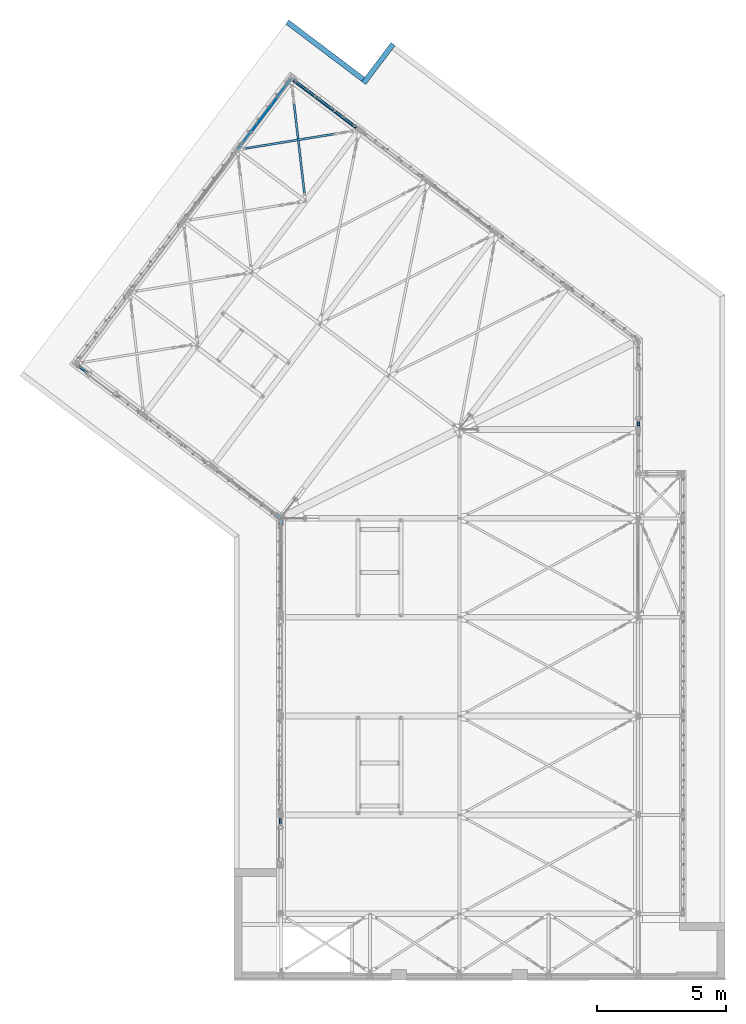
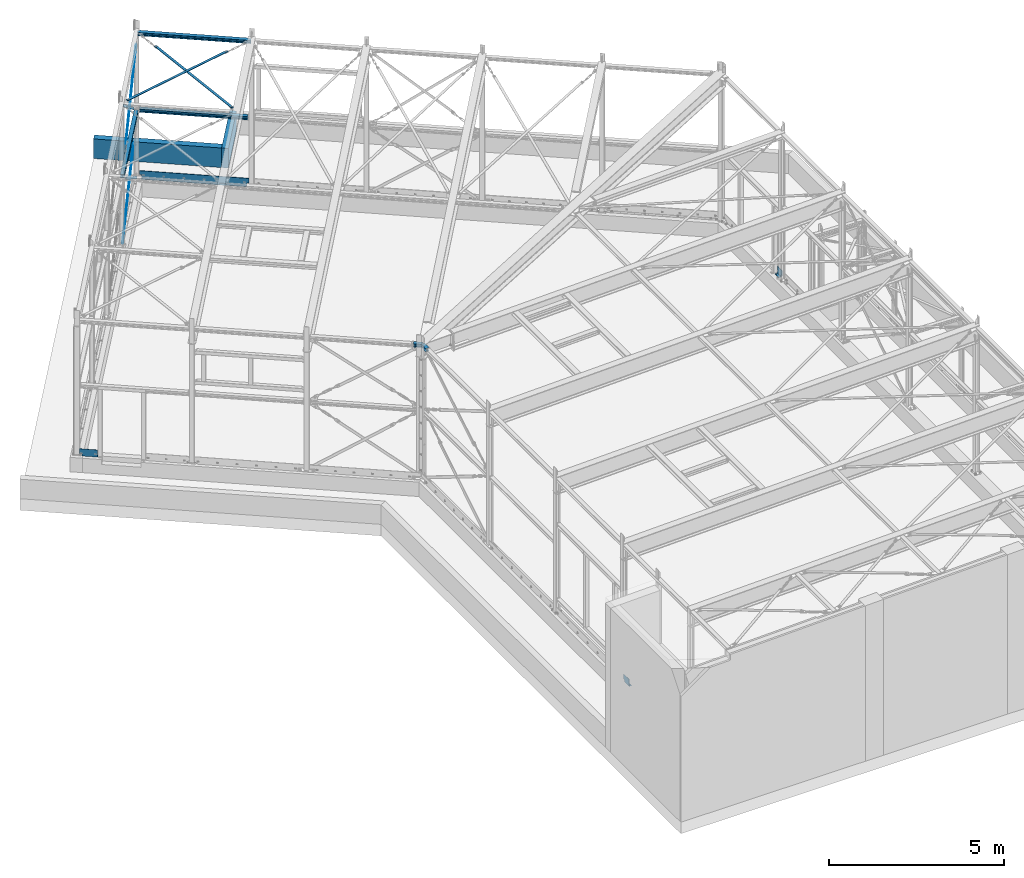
# One storey, part 27 of 476: 11 beams, 6 members, 53 openings.
"""IFC2X3 building model written with IfcOpenShell, lengths in millimetres."""

from ifc_helpers import new_model, entity, si_unit, converted_unit, frame, frame_2d, origin, origin_with_axes, origin_2d, origin_2d_with_axis, place, context, project, spatial, polyline, rectangle, circle, i_section, l_section, outline, extrude, clip, halfspace, material, element, save


model = new_model("IFC2X3")

# Units and contexts
model_context = context("Model", 3, precision=1e-09, world=origin_with_axes())
ifc_project = project(units=[si_unit("LENGTHUNIT", "METRE", prefix="MILLI"), si_unit("AREAUNIT", "SQUARE_METRE"), si_unit("VOLUMEUNIT", "CUBIC_METRE"), converted_unit("PLANEANGLEUNIT", "DEGREE", entity("IfcPlaneAngleMeasure", 0.01745329), si_unit("PLANEANGLEUNIT", "RADIAN"), dimensions=[0, 0, 0, 0, 0, 0, 0])], contexts=[model_context])

# Site, building, storey
site_placement = place(None, origin_with_axes())
site = spatial("IfcSite", under=ifc_project, at=site_placement, Name="mKR Teilneubau & Sanierung BA1 - Ostfildern", CompositionType="ELEMENT")
building_placement = place(site_placement, origin_with_axes())
building = spatial("IfcBuilding", under=site, at=building_placement, Name="Struktur 1", CompositionType="ELEMENT")
storey_placement = place(building_placement, origin_with_axes())
storey = spatial("IfcBuildingStorey", under=building, at=storey_placement, Name="Default Storey", CompositionType="ELEMENT", Elevation=0.0)

# Member, openings
ifc_material_1 = material(Name="S235JR")
member_1_placement = place(None, frame((10318.309689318, 8914.584839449, 5617.150098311), z_axis=(-0.986798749, -0.160487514, -0.021725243), x_axis=(0.018108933, 0.0239618, -0.999548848)))
member_1 = element("IfcMember", 1, at=member_1_placement, inside=storey, material=ifc_material_1, Name="-", ObjectType="-", context=model_context, shape_type="SweptSolid", body=[
    extrude(rectangle(XDim=15.0, YDim=80.0, at=origin_2d()), origin(), (0.0, 0.0, 1.0), 3695.564817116),
])
opening_1_placement = place(member_1_placement, frame((8.0, 0.0, 45.499), z_axis=(1.0, 0.0, 0.0), x_axis=(0.0, 1.0, 0.0)))
element("IfcOpeningElement", 2, at=opening_1_placement, cuts=member_1, ObjectType="Opening", context=model_context, shape_type="SweptSolid", body=[
    extrude(circle(Radius=14.501, at=frame_2d((0.0, 14.501), x_axis=(1.0, 0.0))), origin(), (0.0, 0.0, -1.0), 16.0),
])
opening_2_placement = place(member_1_placement, frame((8.0, 0.0, 3621.06381712), z_axis=(1.0, 0.0, 0.0), x_axis=(0.0, 1.0, 0.0)))
element("IfcOpeningElement", 3, at=opening_2_placement, cuts=member_1, ObjectType="Opening", context=model_context, shape_type="SweptSolid", body=[
    extrude(circle(Radius=14.501, at=frame_2d((0.0, 14.501), x_axis=(1.0, 0.0))), origin(), (0.0, 0.0, -1.0), 16.0),
])

member_2_placement = place(None, frame((8666.794248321, 10162.076268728, 5617.150104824), z_axis=(-0.115440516, 0.993076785, 0.021725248), x_axis=(0.018097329, 0.023970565, -0.999548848)))
member_2 = element("IfcMember", 4, at=member_2_placement, inside=storey, material=ifc_material_1, Name="-", ObjectType="-", context=model_context, shape_type="SweptSolid", body=[
    extrude(rectangle(XDim=15.0, YDim=80.0, at=origin_2d()), origin(), (0.0, 0.0, -1.0), 3695.564817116),
])
opening_3_placement = place(member_2_placement, frame((8.0, 0.0, -60.0), z_axis=(-1.0, 0.0, 0.0), x_axis=(0.0, 0.0, -1.0)))
element("IfcOpeningElement", 5, at=opening_3_placement, cuts=member_2, ObjectType="Opening", context=model_context, shape_type="SweptSolid", body=[
    extrude(circle(Radius=14.501, at=origin_2d_with_axis()), origin(), (0.0, 0.0, 1.0), 16.0),
])
opening_4_placement = place(member_2_placement, frame((8.0, 0.0, -3635.56481712), z_axis=(-1.0, 0.0, 0.0), x_axis=(0.0, 0.0, -1.0)))
element("IfcOpeningElement", 6, at=opening_4_placement, cuts=member_2, ObjectType="Opening", context=model_context, shape_type="SweptSolid", body=[
    extrude(circle(Radius=14.501, at=origin_2d_with_axis()), origin(), (0.0, 0.0, 1.0), 16.0),
])

# Beam, openings
beam_1_placement = place(None, frame((8654.5932132, 11040.249564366, 594.499999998), z_axis=(-0.797941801, 0.602734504, 0.0), x_axis=(-0.602734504, -0.797941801, 0.0)))
beam_1 = element("IfcBeam", 7, at=beam_1_placement, inside=storey, material=ifc_material_1, Name="-", ObjectType="-", context=model_context, shape_type="SweptSolid", body=[
    extrude(l_section(Depth=250.0, Width=90.0, Thickness=10.0, FilletRadius=15.0, EdgeRadius=7.5, at=frame_2d((30.5, 29.4))), origin(), (0.0, 0.0, -1.0), 3143.500052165),
])
opening_5_placement = place(beam_1_placement, frame((-115.7, -94.5, 0.0), z_axis=(1.0, 0.0, 0.0), x_axis=(0.0, 0.0, -1.0)))
element("IfcOpeningElement", 8, at=opening_5_placement, cuts=beam_1, ObjectType="Opening", context=model_context, shape_type="SweptSolid", body=[
    extrude(outline(polyline([(53.501079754, 120.001), (-50.001, 120.001), (-50.001, -50.001), (53.501079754, -50.001), (53.501079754, 120.001)])), origin(), (0.0, 0.0, 1.0), 290.2),
])
opening_6_placement = place(beam_1_placement, frame((-115.7, -94.5, 0.0), z_axis=(1.0, 0.0, 0.0), x_axis=(0.0, 0.0, -1.0)))
element("IfcOpeningElement", 9, at=opening_6_placement, cuts=beam_1, ObjectType="Opening", context=model_context, shape_type="SweptSolid", body=[
    extrude(outline(polyline([(3078.499052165, -50.001), (3211.150575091, -50.001), (3211.150575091, 80.001), (3078.499052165, 80.001), (3078.499052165, -50.001)])), origin(), (0.0, 0.0, 1.0), 290.2),
])
opening_7_placement = place(beam_1_placement, frame((34.4, -95.0, -2033.24906596), z_axis=(0.0, -1.0, 0.0), x_axis=(1.0, 0.0, 0.0)))
element("IfcOpeningElement", 10, at=opening_7_placement, cuts=beam_1, ObjectType="Opening", context=model_context, shape_type="SweptSolid", body=[
    extrude(circle(Radius=6.001, at=frame_2d((0.0, -6.001), x_axis=(1.0, 0.0))), origin(), (0.0, 0.0, -1.0), 11.0),
])
opening_8_placement = place(beam_1_placement, frame((34.4, -95.0, -1083.24906596), z_axis=(0.0, -1.0, 0.0), x_axis=(1.0, 0.0, 0.0)))
element("IfcOpeningElement", 11, at=opening_8_placement, cuts=beam_1, ObjectType="Opening", context=model_context, shape_type="SweptSolid", body=[
    extrude(circle(Radius=6.001, at=frame_2d((0.0, -6.001), x_axis=(1.0, 0.0))), origin(), (0.0, 0.0, -1.0), 11.0),
])
opening_9_placement = place(beam_1_placement, frame((34.4, -95.0, -2983.24906596), z_axis=(0.0, -1.0, 0.0), x_axis=(1.0, 0.0, 0.0)))
element("IfcOpeningElement", 12, at=opening_9_placement, cuts=beam_1, ObjectType="Opening", context=model_context, shape_type="SweptSolid", body=[
    extrude(circle(Radius=6.001, at=frame_2d((0.0, -6.001), x_axis=(1.0, 0.0))), origin(), (0.0, 0.0, -1.0), 11.0),
])
opening_10_placement = place(beam_1_placement, frame((34.4, -95.0, -133.24906596), z_axis=(0.0, -1.0, 0.0), x_axis=(1.0, 0.0, 0.0)))
element("IfcOpeningElement", 13, at=opening_10_placement, cuts=beam_1, ObjectType="Opening", context=model_context, shape_type="SweptSolid", body=[
    extrude(circle(Radius=6.001, at=frame_2d((0.0, -6.001), x_axis=(1.0, 0.0))), origin(), (0.0, 0.0, -1.0), 11.0),
])
opening_11_placement = place(beam_1_placement, frame((-5.1, 13.5, -1571.750026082), z_axis=(-1.0, 0.0, 0.0), x_axis=(0.0, 0.0, 1.0)))
element("IfcOpeningElement", 14, at=opening_11_placement, cuts=beam_1, ObjectType="Opening", context=model_context, shape_type="SweptSolid", body=[
    extrude(circle(Radius=7.001, at=frame_2d((290.0, 0.0), x_axis=(1.0, 0.0))), origin(), (0.0, 0.0, 1.0), 11.0),
])
opening_12_placement = place(beam_1_placement, frame((-5.1, 13.5, -1571.750026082), z_axis=(-1.0, 0.0, 0.0), x_axis=(0.0, 0.0, 1.0)))
element("IfcOpeningElement", 15, at=opening_12_placement, cuts=beam_1, ObjectType="Opening", context=model_context, shape_type="SweptSolid", body=[
    extrude(circle(Radius=7.001, at=frame_2d((-290.0, 0.0), x_axis=(1.0, 0.0))), origin(), (0.0, 0.0, 1.0), 11.0),
])
opening_13_placement = place(beam_1_placement, frame((-5.1, 13.5, -1571.750026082), z_axis=(-1.0, 0.0, 0.0), x_axis=(0.0, 0.0, 1.0)))
element("IfcOpeningElement", 16, at=opening_13_placement, cuts=beam_1, ObjectType="Opening", context=model_context, shape_type="SweptSolid", body=[
    extrude(circle(Radius=7.001, at=frame_2d((870.0, 0.0), x_axis=(1.0, 0.0))), origin(), (0.0, 0.0, 1.0), 11.0),
])
opening_14_placement = place(beam_1_placement, frame((-5.1, 13.5, -1571.750026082), z_axis=(-1.0, 0.0, 0.0), x_axis=(0.0, 0.0, 1.0)))
element("IfcOpeningElement", 17, at=opening_14_placement, cuts=beam_1, ObjectType="Opening", context=model_context, shape_type="SweptSolid", body=[
    extrude(circle(Radius=7.001, at=frame_2d((-870.0, 0.0), x_axis=(1.0, 0.0))), origin(), (0.0, 0.0, 1.0), 11.0),
])
opening_15_placement = place(beam_1_placement, frame((-5.1, 13.5, -1571.750026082), z_axis=(-1.0, 0.0, 0.0), x_axis=(0.0, 0.0, 1.0)))
element("IfcOpeningElement", 18, at=opening_15_placement, cuts=beam_1, ObjectType="Opening", context=model_context, shape_type="SweptSolid", body=[
    extrude(circle(Radius=7.001, at=frame_2d((1450.0, 0.0), x_axis=(1.0, 0.0))), origin(), (0.0, 0.0, 1.0), 11.0),
])
opening_16_placement = place(beam_1_placement, frame((-5.1, 13.5, -1571.750026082), z_axis=(-1.0, 0.0, 0.0), x_axis=(0.0, 0.0, 1.0)))
element("IfcOpeningElement", 19, at=opening_16_placement, cuts=beam_1, ObjectType="Opening", context=model_context, shape_type="SweptSolid", body=[
    extrude(circle(Radius=7.001, at=frame_2d((-1450.0, 0.0), x_axis=(1.0, 0.0))), origin(), (0.0, 0.0, 1.0), 11.0),
])

beam_2_placement = place(None, frame((22016.508764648, -2149.104698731, 594.5), z_axis=(0.0, 1.0, 0.0), x_axis=(-1.0, 0.0, 0.0)))
beam_2 = element("IfcBeam", 20, at=beam_2_placement, inside=storey, material=ifc_material_1, Name="-", ObjectType="-", context=model_context, shape_type="SweptSolid", body=[
    extrude(l_section(Depth=250.0, Width=90.0, Thickness=10.0, FilletRadius=15.0, EdgeRadius=7.5, at=frame_2d((30.5, 29.4))), origin(), (0.0, 0.0, -1.0), 284.316255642),
])
opening_17_placement = place(beam_2_placement, frame((-115.7, -94.5, 0.0), z_axis=(1.0, 0.0, 0.0), x_axis=(0.0, 0.0, -1.0)))
element("IfcOpeningElement", 21, at=opening_17_placement, cuts=beam_2, ObjectType="Opening", context=model_context, shape_type="SweptSolid", body=[
    extrude(outline(polyline([(219.315255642, -50.001), (319.964041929, -50.001), (319.964041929, 80.001), (219.315255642, 80.001), (219.315255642, -50.001)])), origin(), (0.0, 0.0, 1.0), 290.2),
])
opening_18_placement = place(beam_2_placement, frame((34.4, -95.0, -163.656627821), z_axis=(0.0, -1.0, 0.0), x_axis=(1.0, 0.0, 0.0)))
element("IfcOpeningElement", 22, at=opening_18_placement, cuts=beam_2, ObjectType="Opening", context=model_context, shape_type="SweptSolid", body=[
    extrude(circle(Radius=6.001, at=frame_2d((0.0, -6.001), x_axis=(1.0, 0.0))), origin(), (0.0, 0.0, -1.0), 11.0),
])
opening_19_placement = place(beam_2_placement, frame((34.4, -95.0, -43.656627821), z_axis=(0.0, -1.0, 0.0), x_axis=(1.0, 0.0, 0.0)))
element("IfcOpeningElement", 23, at=opening_19_placement, cuts=beam_2, ObjectType="Opening", context=model_context, shape_type="SweptSolid", body=[
    extrude(circle(Radius=6.001, at=frame_2d((0.0, -6.001), x_axis=(1.0, 0.0))), origin(), (0.0, 0.0, -1.0), 11.0),
])
opening_20_placement = place(beam_2_placement, frame((-5.1, 13.5, -42.158127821), z_axis=(-1.0, 0.0, 0.0), x_axis=(0.0, 0.0, 1.0)))
element("IfcOpeningElement", 24, at=opening_20_placement, cuts=beam_2, ObjectType="Opening", context=model_context, shape_type="SweptSolid", body=[
    extrude(circle(Radius=7.001, at=origin_2d_with_axis()), origin(), (0.0, 0.0, 1.0), 11.0),
])

beam_3_placement = place(None, frame((8234.028761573, -6000.355709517, 5157.22121182), z_axis=(-0.797941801, 0.602734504, 0.0), x_axis=(-0.602462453, -0.797581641, -0.030041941)))
beam_3 = element("IfcBeam", 25, at=beam_3_placement, inside=storey, material=ifc_material_1, Name="-", ObjectType="-", context=model_context, shape_type="Clipping", body=[
    clip(clip(extrude(i_section(OverallWidth=120.0, OverallDepth=114.0, WebThickness=5.0, FlangeThickness=8.0, FilletRadius=12.0, at=origin_2d()), origin(), (0.0, 0.0, 1.0), 458.504251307), halfspace(frame((329.852553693, -5149.636145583, 355.744565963), z_axis=(0.0, 0.0, -1.0), x_axis=(-0.999548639, -0.030041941, 0.0)), True)), halfspace(frame((4320.680984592, -5029.689772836, 2167.356466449), z_axis=(-0.445481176, -0.013389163, 0.895191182), x_axis=(0.894787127, 0.026893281, 0.44568234)), True)),
])
opening_21_placement = place(beam_3_placement, frame((3.0, 30.0, 351.746565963), z_axis=(1.0, 0.0, 0.0), x_axis=(0.0, 1.0, 0.0)))
element("IfcOpeningElement", 26, at=opening_21_placement, cuts=beam_3, ObjectType="Opening", context=model_context, shape_type="SweptSolid", body=[
    extrude(circle(Radius=6.001, at=frame_2d((0.0, -6.001), x_axis=(1.0, 0.0))), origin(), (0.0, 0.0, -1.0), 6.0),
])
opening_22_placement = place(beam_3_placement, frame((3.0, -30.0, 351.746565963), z_axis=(1.0, 0.0, 0.0), x_axis=(0.0, 1.0, 0.0)))
element("IfcOpeningElement", 27, at=opening_22_placement, cuts=beam_3, ObjectType="Opening", context=model_context, shape_type="SweptSolid", body=[
    extrude(circle(Radius=6.001, at=frame_2d((0.0, -6.001), x_axis=(1.0, 0.0))), origin(), (0.0, 0.0, -1.0), 6.0),
])
opening_23_placement = place(beam_3_placement, frame((74.112323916, -157.100000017, 91.746565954), z_axis=(0.0, -1.0, 0.0), x_axis=(-1.0, 0.0, 0.0)))
element("IfcOpeningElement", 28, at=opening_23_placement, cuts=beam_3, ObjectType="Opening", context=model_context, shape_type="SweptSolid", body=[
    extrude(outline(polyline([(0.0, 0.0), (217.479720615, 0.0), (217.479720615, 75.099160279), (0.0, 75.099160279), (0.0, 0.0)])), origin(), (0.0, 0.0, -1.0), 314.200000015),
])
opening_24_placement = place(beam_3_placement, frame((3.0, -30.0, 109.343286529), z_axis=(1.0, 0.0, 0.0), x_axis=(0.0, 1.0, 0.0)))
element("IfcOpeningElement", 29, at=opening_24_placement, cuts=beam_3, ObjectType="Opening", context=model_context, shape_type="SweptSolid", body=[
    extrude(circle(Radius=6.001, at=frame_2d((0.0, -6.001), x_axis=(1.0, 0.0))), origin(), (0.0, 0.0, -1.0), 6.0),
])
opening_25_placement = place(beam_3_placement, frame((3.0, 30.0, 109.343286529), z_axis=(1.0, 0.0, 0.0), x_axis=(0.0, 1.0, 0.0)))
element("IfcOpeningElement", 30, at=opening_25_placement, cuts=beam_3, ObjectType="Opening", context=model_context, shape_type="SweptSolid", body=[
    extrude(circle(Radius=6.001, at=frame_2d((0.0, -6.001), x_axis=(1.0, 0.0))), origin(), (0.0, 0.0, -1.0), 6.0),
])
opening_26_placement = place(beam_3_placement, frame((49.999, 157.1, 268.853657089), z_axis=(0.0, 1.0, 0.0), x_axis=(1.0, 0.0, 0.0)))
element("IfcOpeningElement", 31, at=opening_26_placement, cuts=beam_3, ObjectType="Opening", context=model_context, shape_type="SweptSolid", body=[
    extrude(outline(polyline([(0.0, 0.0), (58.148653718, 0.0), (58.148653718, 228.555068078), (0.0, 228.555068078), (0.0, 0.0)])), origin(), (0.0, 0.0, -1.0), 314.2),
])

# Member, openings
member_3_placement = place(None, frame((6646.175757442, 8483.401915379, 5266.533692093), z_axis=(-0.485284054, -0.64245274, 0.593088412), x_axis=(0.797941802, -0.602734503, 0.0)))
member_3 = element("IfcMember", 32, at=member_3_placement, inside=storey, material=ifc_material_1, Name="-", ObjectType="-", context=model_context, shape_type="SweptSolid", body=[
    extrude(rectangle(XDim=15.0, YDim=80.0, at=origin_2d()), origin(), (0.0, 0.0, -1.0), 2946.651171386),
])
opening_27_placement = place(member_3_placement, frame((8.0, 0.0, -60.000000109), z_axis=(-1.0, 0.0, 0.0), x_axis=(0.0, 0.0, 1.0)))
element("IfcOpeningElement", 33, at=opening_27_placement, cuts=member_3, ObjectType="Opening", context=model_context, shape_type="SweptSolid", body=[
    extrude(circle(Radius=16.001, at=origin_2d_with_axis()), origin(), (0.0, 0.0, 1.0), 16.0),
])
opening_28_placement = place(member_3_placement, frame((8.0, -1.023e-06, -2886.651171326), z_axis=(-1.0, 0.0, 0.0), x_axis=(0.0, 0.0, 1.0)))
element("IfcOpeningElement", 34, at=opening_28_placement, cuts=member_3, ObjectType="Opening", context=model_context, shape_type="SweptSolid", body=[
    extrude(circle(Radius=16.001, at=origin_2d_with_axis()), origin(), (0.0, 0.0, 1.0), 16.0),
])

member_4_placement = place(None, frame((6986.726112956, 8934.246131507, 3536.964340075), z_axis=(-0.478329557, -0.633245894, -0.608441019), x_axis=(0.797941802, -0.602734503, 0.0)))
member_4 = element("IfcMember", 35, at=member_4_placement, inside=storey, material=ifc_material_1, Name="-", ObjectType="-", context=model_context, shape_type="SweptSolid", body=[
    extrude(rectangle(XDim=15.0, YDim=80.0, at=origin_2d()), origin(), (0.0, 0.0, -1.0), 2988.212148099),
])
opening_29_placement = place(member_4_placement, frame((8.0, 0.0, -2928.212148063), z_axis=(-1.0, 0.0, 0.0), x_axis=(0.0, 0.0, 1.0)))
element("IfcOpeningElement", 36, at=opening_29_placement, cuts=member_4, ObjectType="Opening", context=model_context, shape_type="SweptSolid", body=[
    extrude(circle(Radius=16.001, at=origin_2d_with_axis()), origin(), (0.0, 0.0, 1.0), 16.0),
])
opening_30_placement = place(member_4_placement, frame((8.0, 0.0, -60.000000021), z_axis=(-1.0, 0.0, 0.0), x_axis=(0.0, 0.0, 1.0)))
element("IfcOpeningElement", 37, at=opening_30_placement, cuts=member_4, ObjectType="Opening", context=model_context, shape_type="SweptSolid", body=[
    extrude(circle(Radius=16.001, at=origin_2d_with_axis()), origin(), (0.0, 0.0, 1.0), 16.0),
])

member_5_placement = place(None, frame((7000.79940577, 8952.877334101, 2336.132255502), z_axis=(-0.496844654, -0.657757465, 0.566127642), x_axis=(0.797941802, -0.602734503, 0.0)))
member_5 = element("IfcMember", 38, at=member_5_placement, inside=storey, material=ifc_material_1, Name="-", ObjectType="-", context=model_context, shape_type="SweptSolid", body=[
    extrude(rectangle(XDim=15.0, YDim=80.0, at=origin_2d()), origin(), (0.0, 0.0, -1.0), 3066.856078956),
])
opening_31_placement = place(member_5_placement, frame((8.0, 0.0, -3006.856078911), z_axis=(-1.0, 0.0, 0.0), x_axis=(0.0, 0.0, 1.0)))
element("IfcOpeningElement", 39, at=opening_31_placement, cuts=member_5, ObjectType="Opening", context=model_context, shape_type="SweptSolid", body=[
    extrude(circle(Radius=16.001, at=origin_2d_with_axis()), origin(), (0.0, 0.0, 1.0), 16.0),
])
opening_32_placement = place(member_5_placement, frame((8.0, 0.0, -59.999999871), z_axis=(-1.0, 0.0, 0.0), x_axis=(0.0, 0.0, 1.0)))
element("IfcOpeningElement", 40, at=opening_32_placement, cuts=member_5, ObjectType="Opening", context=model_context, shape_type="SweptSolid", body=[
    extrude(circle(Radius=16.001, at=origin_2d_with_axis()), origin(), (0.0, 0.0, 1.0), 16.0),
])

member_6_placement = place(None, frame((8067.338352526, 10364.835676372, 2336.132255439), z_axis=(0.496844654, 0.657757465, 0.566127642), x_axis=(0.797941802, -0.602734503, 0.0)))
member_6 = element("IfcMember", 41, at=member_6_placement, inside=storey, material=ifc_material_1, Name="-", ObjectType="-", context=model_context, shape_type="SweptSolid", body=[
    extrude(rectangle(XDim=15.0, YDim=80.0, at=origin_2d()), origin(), (0.0, 0.0, -1.0), 3066.856078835),
])
opening_33_placement = place(member_6_placement, frame((8.0, 0.0, -3006.856078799), z_axis=(-1.0, 0.0, 0.0), x_axis=(0.0, 0.0, -1.0)))
element("IfcOpeningElement", 42, at=opening_33_placement, cuts=member_6, ObjectType="Opening", context=model_context, shape_type="SweptSolid", body=[
    extrude(circle(Radius=16.001, at=origin_2d_with_axis()), origin(), (0.0, 0.0, 1.0), 16.0),
])
opening_34_placement = place(member_6_placement, frame((8.0, 0.0, -59.999999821), z_axis=(-1.0, 0.0, 0.0), x_axis=(0.0, 0.0, -1.0)))
element("IfcOpeningElement", 43, at=opening_34_placement, cuts=member_6, ObjectType="Opening", context=model_context, shape_type="SweptSolid", body=[
    extrude(circle(Radius=16.001, at=origin_2d_with_axis()), origin(), (0.0, 0.0, 1.0), 16.0),
])

# Beams
beam_4_placement = place(None, frame((8610.643504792, 11108.987343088, 2912.000000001), z_axis=(0.602734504, 0.797941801, 0.0), x_axis=(0.797941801, -0.602734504, 0.0)))
element("IfcBeam", 44, at=beam_4_placement, inside=storey, material=ifc_material_1, Name="-", ObjectType="-", context=model_context, shape_type="Clipping", body=[
    clip(clip(extrude(i_section(OverallWidth=120.0, OverallDepth=114.0, WebThickness=5.0, FlangeThickness=8.0, FilletRadius=12.0, at=origin_2d()), origin(), (0.0, 0.0, -1.0), 3612.017370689), halfspace(frame((-175.022404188, 2912.000000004, -182.759685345), z_axis=(0.0, 0.0, -1.0), x_axis=(1.0, 0.0, 0.0)), True)), halfspace(frame((-175.022404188, 2912.000000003, -3429.257685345), z_axis=(0.0, 0.0, 1.0), x_axis=(-1.0, 0.0, 0.0)), True)),
])
beam_5_placement = place(None, frame((8496.836116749, 11095.624214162, 2912.000000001), z_axis=(-0.797941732, 0.602734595, 0.0), x_axis=(-0.602734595, -0.797941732, 0.0)))
element("IfcBeam", 45, at=beam_5_placement, inside=storey, material=ifc_material_1, Name="-", ObjectType="-", context=model_context, shape_type="Clipping", body=[
    clip(clip(extrude(i_section(OverallWidth=120.0, OverallDepth=114.0, WebThickness=5.0, FlangeThickness=8.0, FilletRadius=12.0, at=origin_2d()), origin(), (0.0, 0.0, -1.0), 3465.515931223), halfspace(frame((13974.998298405, -2912.000000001, -3282.757829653), z_axis=(1.13e-07, 0.0, 1.0), x_axis=(1.0, 0.0, -1.13e-07)), True)), halfspace(frame((13974.998651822, -2912.0, -164.259857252), z_axis=(-1.13e-07, 0.0, -1.0), x_axis=(-1.0, 0.0, 1.13e-07)), True)),
])

# Beam, openings
beam_6_placement = place(None, frame((8499.62776878, 11093.515507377, 5571.987194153), z_axis=(-0.797941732, 0.602734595, 0.0), x_axis=(-0.602462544, -0.797581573, -0.030041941)))
beam_6 = element("IfcBeam", 46, at=beam_6_placement, inside=storey, material=ifc_material_1, Name="-", ObjectType="-", context=model_context, shape_type="Clipping", body=[
    clip(clip(extrude(i_section(OverallWidth=120.0, OverallDepth=114.0, WebThickness=5.0, FlangeThickness=8.0, FilletRadius=12.0, at=origin_2d()), origin(), (0.0, 0.0, -1.0), 3462.017433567), halfspace(frame((14136.083833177, -5149.636124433, -3361.259281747), z_axis=(1.13e-07, 0.0, 1.0), x_axis=(0.999548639, 0.030041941, -1.13e-07)), True)), halfspace(frame((14136.084202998, -5149.636124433, -98.061309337), z_axis=(-1.13e-07, 0.0, -1.0), x_axis=(-0.999548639, -0.030041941, 1.13e-07)), True)),
])
opening_35_placement = place(beam_6_placement, frame((0.0, 58.353598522, -3379.258748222), z_axis=(0.0, -1.0, 0.0), x_axis=(1.13e-07, 0.0, 1.0)))
element("IfcOpeningElement", 47, at=opening_35_placement, cuts=beam_6, ObjectType="Opening", context=model_context, shape_type="SweptSolid", body=[
    extrude(outline(polyline([(80.00006853, 45.000009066), (80.00006853, 75.000009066), (18.00006853, 75.000009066), (18.00006853, 45.000009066), (80.00006853, 45.000009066)])), origin(), (0.0, 0.0, 1.0), 59.707197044),
])
opening_36_placement = place(beam_6_placement, frame((0.0, 1.332627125, -3379.258748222), z_axis=(0.0, -1.0, 0.0), x_axis=(1.13e-07, 0.0, 1.0)))
element("IfcOpeningElement", 48, at=opening_36_placement, cuts=beam_6, ObjectType="Opening", context=model_context, shape_type="SweptSolid", body=[
    extrude(outline(polyline([(80.00006853, 45.000009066), (80.00006853, 75.000009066), (18.00006853, 75.000009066), (18.00006853, 45.000009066), (80.00006853, 45.000009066)])), origin(), (0.0, 0.0, 1.0), 59.665254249),
])
opening_37_placement = place(beam_6_placement, frame((0.0, -1.302530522, -82.758685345), z_axis=(0.0, 1.0, 0.0), x_axis=(-1.13e-07, 0.0, -1.0)))
element("IfcOpeningElement", 49, at=opening_37_placement, cuts=beam_6, ObjectType="Opening", context=model_context, shape_type="SweptSolid", body=[
    extrude(outline(polyline([(80.000021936, 44.999990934), (80.000021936, 75.000005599), (15.300021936, 75.000005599), (15.300021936, 44.999990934), (80.000021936, 44.999990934)])), origin(), (0.0, 0.0, 1.0), 59.605061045),
])
opening_38_placement = place(beam_6_placement, frame((0.0, -58.32209218, -82.758685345), z_axis=(0.0, 1.0, 0.0), x_axis=(-1.13e-07, 0.0, -1.0)))
element("IfcOpeningElement", 50, at=opening_38_placement, cuts=beam_6, ObjectType="Opening", context=model_context, shape_type="SweptSolid", body=[
    extrude(outline(polyline([(80.000021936, 44.999990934), (80.000021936, 75.000005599), (15.300021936, 75.000005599), (15.300021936, 44.999990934), (80.000021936, 44.999990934)])), origin(), (0.0, 0.0, 1.0), 59.64418436),
])

beam_7_placement = place(None, frame((8114.708764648, -17485.67387897, 594.5), z_axis=(0.0, -1.0, 0.0), x_axis=(1.0, 0.0, 0.0)))
beam_7 = element("IfcBeam", 51, at=beam_7_placement, inside=storey, material=ifc_material_1, Name="-", ObjectType="-", context=model_context, shape_type="SweptSolid", body=[
    extrude(l_section(Depth=250.0, Width=90.0, Thickness=10.0, FilletRadius=15.0, EdgeRadius=7.5, at=frame_2d((30.5, 29.4))), origin(), (0.0, 0.0, 1.0), 334.998155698),
])
opening_39_placement = place(beam_7_placement, frame((-115.7, -14.499, 65.001), z_axis=(-1.0, 0.0, 0.0), x_axis=(0.0, 0.0, -1.0)))
element("IfcOpeningElement", 52, at=opening_39_placement, cuts=beam_7, ObjectType="Opening", context=model_context, shape_type="SweptSolid", body=[
    extrude(outline(polyline([(0.0, 0.0), (115.002, 0.0), (115.002, 130.002), (0.0, 130.002), (0.0, 0.0)])), origin(), (0.0, 0.0, -1.0), 290.2),
])
opening_40_placement = place(beam_7_placement, frame((34.4, -95.0, 199.999577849), z_axis=(0.0, 1.0, 0.0), x_axis=(0.0, 0.0, 1.0)))
element("IfcOpeningElement", 53, at=opening_40_placement, cuts=beam_7, ObjectType="Opening", context=model_context, shape_type="SweptSolid", body=[
    extrude(circle(Radius=6.001, at=frame_2d((75.0, 0.0), x_axis=(1.0, 0.0))), origin(), (0.0, 0.0, 1.0), 11.0),
])
opening_41_placement = place(beam_7_placement, frame((34.4, -95.0, 199.999577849), z_axis=(0.0, 1.0, 0.0), x_axis=(0.0, 0.0, 1.0)))
element("IfcOpeningElement", 54, at=opening_41_placement, cuts=beam_7, ObjectType="Opening", context=model_context, shape_type="SweptSolid", body=[
    extrude(circle(Radius=6.001, at=frame_2d((-75.0, 0.0), x_axis=(1.0, 0.0))), origin(), (0.0, 0.0, 1.0), 11.0),
])
opening_42_placement = place(beam_7_placement, frame((-5.1, 13.5, 297.499077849), z_axis=(-1.0, 0.0, 0.0), x_axis=(0.0, 0.0, 1.0)))
element("IfcOpeningElement", 55, at=opening_42_placement, cuts=beam_7, ObjectType="Opening", context=model_context, shape_type="SweptSolid", body=[
    extrude(circle(Radius=7.001, at=origin_2d_with_axis()), origin(), (0.0, 0.0, 1.0), 11.0),
])

beam_8_placement = place(None, frame((281.08435974, -56.79692134, 594.5), z_axis=(0.797941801, -0.602734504, 0.0), x_axis=(0.602734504, 0.797941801, 0.0)))
beam_8 = element("IfcBeam", 56, at=beam_8_placement, inside=storey, material=ifc_material_1, Name="-", ObjectType="-", context=model_context, shape_type="SweptSolid", body=[
    extrude(l_section(Depth=250.0, Width=90.0, Thickness=10.0, FilletRadius=15.0, EdgeRadius=7.5, at=frame_2d((30.5, 29.4))), origin(), (0.0, 0.0, 1.0), 516.498423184),
])
opening_43_placement = place(beam_8_placement, frame((-115.7, -14.499, 65.001), z_axis=(-1.0, 0.0, 0.0), x_axis=(0.0, 0.0, -1.0)))
element("IfcOpeningElement", 57, at=opening_43_placement, cuts=beam_8, ObjectType="Opening", context=model_context, shape_type="SweptSolid", body=[
    extrude(outline(polyline([(0.0, 0.0), (115.002, 0.0), (115.002, 130.002), (0.0, 130.002), (0.0, 0.0)])), origin(), (0.0, 0.0, -1.0), 290.2),
])
opening_44_placement = place(beam_8_placement, frame((34.4, -95.0, 290.749711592), z_axis=(0.0, 1.0, 0.0), x_axis=(0.0, 0.0, 1.0)))
element("IfcOpeningElement", 58, at=opening_44_placement, cuts=beam_8, ObjectType="Opening", context=model_context, shape_type="SweptSolid", body=[
    extrude(circle(Radius=6.001, at=frame_2d((150.0, 0.0), x_axis=(1.0, 0.0))), origin(), (0.0, 0.0, 1.0), 11.0),
])
opening_45_placement = place(beam_8_placement, frame((34.4, -95.0, 290.749711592), z_axis=(0.0, 1.0, 0.0), x_axis=(0.0, 0.0, 1.0)))
element("IfcOpeningElement", 59, at=opening_45_placement, cuts=beam_8, ObjectType="Opening", context=model_context, shape_type="SweptSolid", body=[
    extrude(circle(Radius=6.001, at=frame_2d((-150.0, 0.0), x_axis=(1.0, 0.0))), origin(), (0.0, 0.0, 1.0), 11.0),
])
opening_46_placement = place(beam_8_placement, frame((-5.1, 13.5, 258.249211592), z_axis=(-1.0, 0.0, 0.0), x_axis=(0.0, 0.0, 1.0)))
element("IfcOpeningElement", 60, at=opening_46_placement, cuts=beam_8, ObjectType="Opening", context=model_context, shape_type="SweptSolid", body=[
    extrude(circle(Radius=7.001, at=frame_2d((200.0, 0.0), x_axis=(1.0, 0.0))), origin(), (0.0, 0.0, 1.0), 11.0),
])
opening_47_placement = place(beam_8_placement, frame((-5.1, 13.5, 258.249211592), z_axis=(-1.0, 0.0, 0.0), x_axis=(0.0, 0.0, 1.0)))
element("IfcOpeningElement", 61, at=opening_47_placement, cuts=beam_8, ObjectType="Opening", context=model_context, shape_type="SweptSolid", body=[
    extrude(circle(Radius=7.001, at=frame_2d((-200.0, 0.0), x_axis=(1.0, 0.0))), origin(), (0.0, 0.0, 1.0), 11.0),
])

# Beams
ifc_material_2 = material(Name="C25/30")
beam_9_placement = place(None, frame((12504.444194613, 12373.266277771, 340.0), z_axis=(0.602734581, 0.797941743, 0.0), x_axis=(-0.797941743, 0.602734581, 0.0)))
element("IfcBeam", 62, at=beam_9_placement, inside=storey, material=ifc_material_2, Name="-", ObjectType="-", context=model_context, shape_type="SweptSolid", body=[
    extrude(outline(polyline([(100.0, -340.0), (100.0, 340.0), (-100.0, 340.0), (-100.0, -340.0), (100.0, -340.0)])), origin(), (0.0, 0.0, -1.0), 1884.999972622),
])
beam_10_placement = place(None, frame((11348.768809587, 11009.213746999, 340.0), z_axis=(0.797941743, -0.602734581, 0.0), x_axis=(0.602734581, 0.797941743, 0.0)))
element("IfcBeam", 63, at=beam_10_placement, inside=storey, material=ifc_material_2, Name="-", ObjectType="-", context=model_context, shape_type="SweptSolid", body=[
    extrude(outline(polyline([(100.0, -340.0), (100.0, 340.0), (-100.0, 340.0), (-100.0, -340.0), (100.0, -340.0)])), origin(), (0.0, 0.0, -1.0), 3675.002004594),
])

# Beam, openings
beam_11_placement = place(None, frame((8165.608780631, -5862.928313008, 5157.22121182), z_axis=(0.0, 1.0, 0.0), x_axis=(-0.999548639, 0.0, -0.030041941)))
beam_11 = element("IfcBeam", 64, at=beam_11_placement, inside=storey, material=ifc_material_1, Name="-", ObjectType="-", context=model_context, shape_type="Clipping", body=[
    clip(clip(extrude(i_section(OverallWidth=120.0, OverallDepth=114.0, WebThickness=5.0, FlangeThickness=8.0, FilletRadius=12.0, at=origin_2d()), origin(), (0.0, 0.0, -1.0), 458.504251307), halfspace(frame((8316.856080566, -4909.582703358, -355.744565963), z_axis=(0.0, 0.0, 1.0), x_axis=(0.999548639, 0.030041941, 0.0)), True)), halfspace(frame((4320.680984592, -5029.689772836, -2167.356466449), z_axis=(-0.445481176, -0.013389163, -0.895191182), x_axis=(-0.894787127, -0.026893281, 0.44568234)), True)),
])
opening_48_placement = place(beam_11_placement, frame((3.0, 30.0, -345.745565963), z_axis=(-1.0, 0.0, 0.0), x_axis=(0.0, 0.0, 1.0)))
element("IfcOpeningElement", 65, at=opening_48_placement, cuts=beam_11, ObjectType="Opening", context=model_context, shape_type="SweptSolid", body=[
    extrude(circle(Radius=6.001, at=origin_2d_with_axis()), origin(), (0.0, 0.0, 1.0), 6.0),
])
opening_49_placement = place(beam_11_placement, frame((3.0, -30.0, -345.745565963), z_axis=(-1.0, 0.0, 0.0), x_axis=(0.0, 0.0, 1.0)))
element("IfcOpeningElement", 66, at=opening_49_placement, cuts=beam_11, ObjectType="Opening", context=model_context, shape_type="SweptSolid", body=[
    extrude(circle(Radius=6.001, at=origin_2d_with_axis()), origin(), (0.0, 0.0, 1.0), 6.0),
])
opening_50_placement = place(beam_11_placement, frame((-2e-08, -157.100000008, -160.34099416), z_axis=(0.0, 1.0, 0.0), x_axis=(-1.0, 0.0, 0.0)))
element("IfcOpeningElement", 67, at=opening_50_placement, cuts=beam_11, ObjectType="Opening", context=model_context, shape_type="SweptSolid", body=[
    extrude(outline(polyline([(-74.112323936, 68.594428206), (143.367396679, 68.594428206), (143.367396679, 143.693588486), (-74.112323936, 143.693588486), (-74.112323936, 68.594428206)])), origin(), (0.0, 0.0, 1.0), 314.200000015),
])
opening_51_placement = place(beam_11_placement, frame((3.0, -30.0, -131.342286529), z_axis=(-1.0, 0.0, 0.0), x_axis=(0.0, 0.0, 1.0)))
element("IfcOpeningElement", 68, at=opening_51_placement, cuts=beam_11, ObjectType="Opening", context=model_context, shape_type="SweptSolid", body=[
    extrude(circle(Radius=6.001, at=frame_2d((28.0, 0.0), x_axis=(1.0, 0.0))), origin(), (0.0, 0.0, 1.0), 6.0),
])
opening_52_placement = place(beam_11_placement, frame((3.0, 30.0, -131.342286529), z_axis=(-1.0, 0.0, 0.0), x_axis=(0.0, 0.0, 1.0)))
element("IfcOpeningElement", 69, at=opening_52_placement, cuts=beam_11, ObjectType="Opening", context=model_context, shape_type="SweptSolid", body=[
    extrude(circle(Radius=6.001, at=frame_2d((28.0, 0.0), x_axis=(1.0, 0.0))), origin(), (0.0, 0.0, 1.0), 6.0),
])
opening_53_placement = place(beam_11_placement, frame((0.0, -157.1, -375.745565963), z_axis=(0.0, 1.0, 0.0), x_axis=(-1.0, 0.0, 0.0)))
element("IfcOpeningElement", 70, at=opening_53_placement, cuts=beam_11, ObjectType="Opening", context=model_context, shape_type="SweptSolid", body=[
    extrude(outline(polyline([(-109.315352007, 106.891280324), (-49.999, 106.891280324), (-49.999, 335.398511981), (-109.315352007, 335.398511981), (-109.315352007, 106.891280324)])), origin(), (0.0, 0.0, 1.0), 314.2),
])

save(model, "model.ifc")
